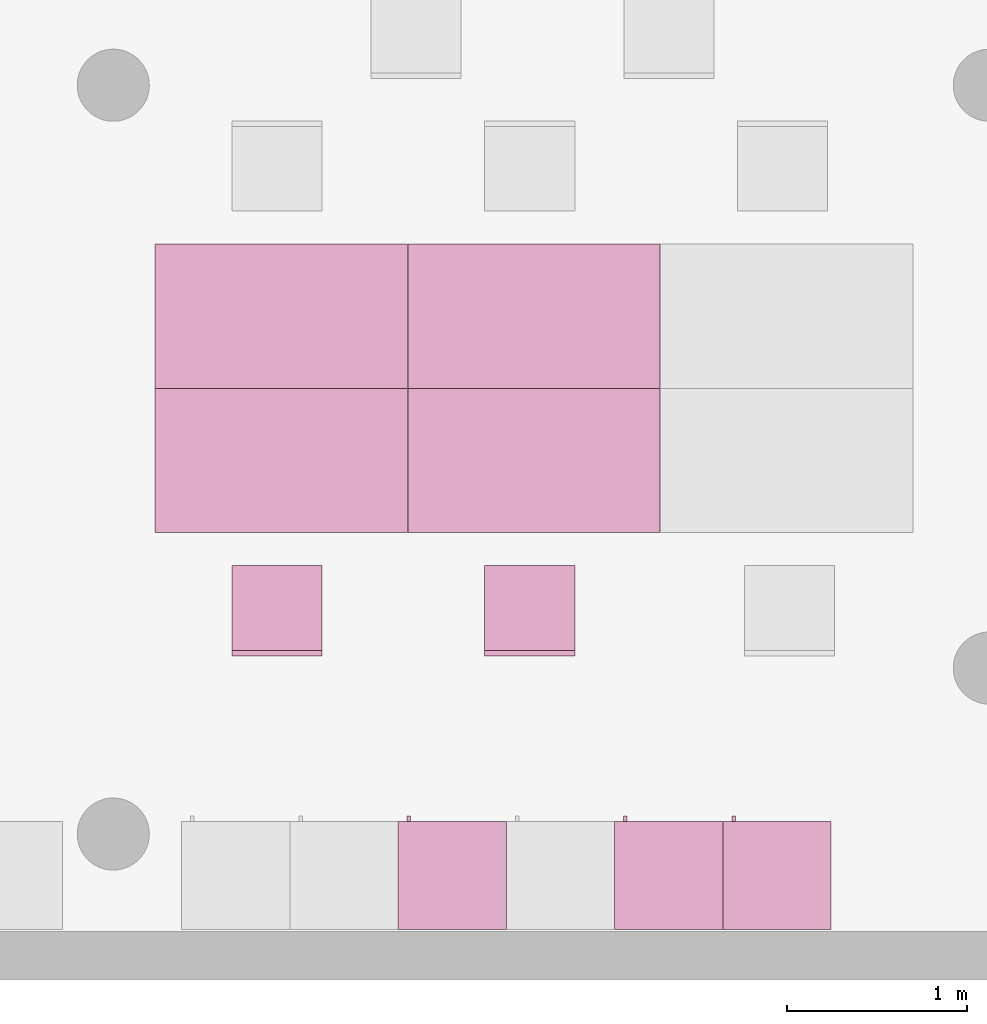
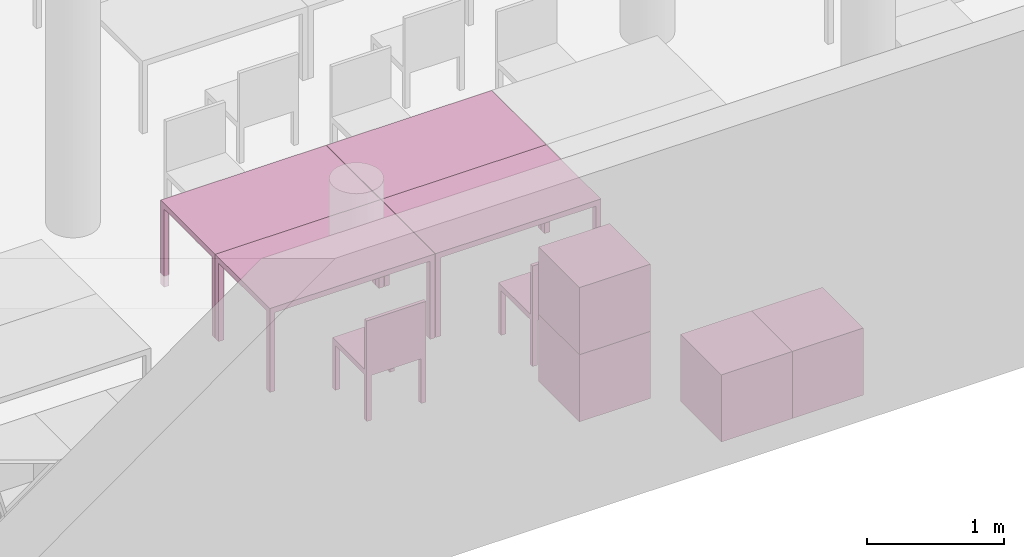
"""IFC4 building model written with IfcOpenShell, lengths in metres."""

from ifc_helpers import new_model, entity, si_unit, converted_unit, derived_unit, frame, origin, place, context, subcontext, project, spatial, faceted_brep, element, save


model = new_model("IFC4")

# Units and contexts
model_context = context("Model", 3, precision=1e-05, world=origin())
body_context = subcontext(model_context, "Body", "Model", "MODEL_VIEW")
ifc_project = project(units=[si_unit("LENGTHUNIT", "METRE"), si_unit("AREAUNIT", "SQUARE_METRE"), si_unit("VOLUMEUNIT", "CUBIC_METRE"), si_unit("MASSUNIT", "GRAM", prefix="KILO"), converted_unit("PLANEANGLEUNIT", "DEGREE", entity("IfcPlaneAngleMeasure", 0.0174532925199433), si_unit("PLANEANGLEUNIT", "RADIAN"), dimensions=[0, 0, 0, 0, 0, 0, 0]), derived_unit("THERMALTRANSMITTANCEUNIT", [(si_unit("POWERUNIT", "WATT"), 1), (si_unit("THERMODYNAMICTEMPERATUREUNIT", "KELVIN"), -1), (si_unit("LENGTHUNIT", "METRE"), -2)]), derived_unit("VOLUMETRICFLOWRATEUNIT", [(si_unit("LENGTHUNIT", "METRE"), 3), (converted_unit("TIMEUNIT", "hour", entity("IfcTimeMeasure", 3600.0), si_unit("TIMEUNIT", "SECOND"), dimensions=[0, 0, 1, 0, 0, 0, 0]), -1), (si_unit("LENGTHUNIT", "METRE"), -1)])], contexts=[model_context])

# Building, storeys
building_placement = place(None, origin())
building = spatial("IfcBuilding", under=ifc_project, at=building_placement, Name="HABITATGE PLURIFAMILIAR", CompositionType="ELEMENT")
storey_1_placement = place(building_placement, frame((0.0, 0.0, 15.28)))
storey_1 = spatial("IfcBuildingStorey", under=building, at=storey_1_placement, Name="PLANTA QUARTA", CompositionType="ELEMENT", Elevation=15.28)
storey_2_placement = place(storey_1_placement, frame((0.0, 0.0, 12.27)))
storey_2 = spatial("IfcBuildingStorey", under=storey_1, at=storey_2_placement, Name="NOU", CompositionType="PARTIAL")

# Furniture
furniture_1_placement = place(storey_2_placement, frame((416.369366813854, 15.3194598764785, -12.3699999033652)))
element("IfcFurniture", 1, at=furniture_1_placement, inside=storey_2, Name="Taula 140X80_P4", context=body_context, shape_type="Brep", body=[
    faceted_brep([(0.04375, 0.750069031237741, 0.0), (0.04375, 0.800069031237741, 0.0), (0.0, 0.800069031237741, 0.0), (0.0, 0.750069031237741, 0.0), (0.04375, 0.800069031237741, 0.7), (0.04375, 0.750069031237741, 0.7), (0.0, 0.750069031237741, 0.7), (0.0, 0.800069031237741, 0.7)], [[[0, 1, 2, 3]], [[4, 5, 6, 7]], [[1, 0, 5, 4]], [[2, 1, 4, 7]], [[3, 2, 7, 6]], [[0, 3, 6, 5]]], orient=[[False], [False], [False], [False], [False], [False]]),
    faceted_brep([(0.04375, 0.0, 0.0), (0.04375, 0.05, 0.0), (0.0, 0.05, 0.0), (0.0, 0.0, 0.0), (0.04375, 0.05, 0.7), (0.04375, 0.0, 0.7), (0.0, 0.0, 0.7), (0.0, 0.05, 0.7)], [[[0, 1, 2, 3]], [[4, 5, 6, 7]], [[1, 0, 5, 4]], [[2, 1, 4, 7]], [[3, 2, 7, 6]], [[0, 3, 6, 5]]], orient=[[False], [False], [False], [False], [False], [False]]),
    faceted_brep([(1.39732768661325, 0.0, 0.7), (1.39732768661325, 0.800069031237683, 0.7), (0.0, 0.800069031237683, 0.7), (0.0, 0.0, 0.7), (1.39732768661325, 0.800069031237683, 0.75), (1.39732768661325, 0.0, 0.75), (0.0, 0.0, 0.75), (0.0, 0.800069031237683, 0.75)], [[[0, 1, 2, 3]], [[4, 5, 6, 7]], [[1, 0, 5, 4]], [[2, 1, 4, 7]], [[3, 2, 7, 6]], [[0, 3, 6, 5]]], orient=[[False], [False], [False], [False], [False], [False]]),
    faceted_brep([(1.39732768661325, 0.750069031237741, 0.0), (1.39732768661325, 0.800069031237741, 0.0), (1.35357768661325, 0.800069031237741, 0.0), (1.35357768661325, 0.750069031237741, 0.0), (1.39732768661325, 0.800069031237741, 0.7), (1.39732768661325, 0.750069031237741, 0.7), (1.35357768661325, 0.750069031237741, 0.7), (1.35357768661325, 0.800069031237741, 0.7)], [[[0, 1, 2, 3]], [[4, 5, 6, 7]], [[1, 0, 5, 4]], [[2, 1, 4, 7]], [[3, 2, 7, 6]], [[0, 3, 6, 5]]], orient=[[False], [False], [False], [False], [False], [False]]),
    faceted_brep([(1.39732768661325, 0.0, 0.0), (1.39732768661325, 0.05, 0.0), (1.35357768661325, 0.05, 0.0), (1.35357768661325, 0.0, 0.0), (1.39732768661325, 0.05, 0.7), (1.39732768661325, 0.0, 0.7), (1.35357768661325, 0.0, 0.7), (1.35357768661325, 0.05, 0.7)], [[[0, 1, 2, 3]], [[4, 5, 6, 7]], [[1, 0, 5, 4]], [[2, 1, 4, 7]], [[3, 2, 7, 6]], [[0, 3, 6, 5]]], orient=[[False], [False], [False], [False], [False], [False]]),
])
furniture_2_placement = place(storey_2_placement, frame((417.77054591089, 15.3194598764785, -12.3699999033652)))
element("IfcFurniture", 2, at=furniture_2_placement, inside=storey_2, Name="Taula 140X80_P4", context=body_context, shape_type="Brep", body=[
    faceted_brep([(0.04375, 0.750069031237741, 0.0), (0.04375, 0.800069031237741, 0.0), (0.0, 0.800069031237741, 0.0), (0.0, 0.750069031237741, 0.0), (0.04375, 0.800069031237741, 0.7), (0.04375, 0.750069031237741, 0.7), (0.0, 0.750069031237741, 0.7), (0.0, 0.800069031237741, 0.7)], [[[0, 1, 2, 3]], [[4, 5, 6, 7]], [[1, 0, 5, 4]], [[2, 1, 4, 7]], [[3, 2, 7, 6]], [[0, 3, 6, 5]]], orient=[[False], [False], [False], [False], [False], [False]]),
    faceted_brep([(0.04375, 0.0, 0.0), (0.04375, 0.05, 0.0), (0.0, 0.05, 0.0), (0.0, 0.0, 0.0), (0.04375, 0.05, 0.7), (0.04375, 0.0, 0.7), (0.0, 0.0, 0.7), (0.0, 0.05, 0.7)], [[[0, 1, 2, 3]], [[4, 5, 6, 7]], [[1, 0, 5, 4]], [[2, 1, 4, 7]], [[3, 2, 7, 6]], [[0, 3, 6, 5]]], orient=[[False], [False], [False], [False], [False], [False]]),
    faceted_brep([(1.39732768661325, 0.0, 0.7), (1.39732768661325, 0.800069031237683, 0.7), (0.0, 0.800069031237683, 0.7), (0.0, 0.0, 0.7), (1.39732768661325, 0.800069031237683, 0.75), (1.39732768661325, 0.0, 0.75), (0.0, 0.0, 0.75), (0.0, 0.800069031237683, 0.75)], [[[0, 1, 2, 3]], [[4, 5, 6, 7]], [[1, 0, 5, 4]], [[2, 1, 4, 7]], [[3, 2, 7, 6]], [[0, 3, 6, 5]]], orient=[[False], [False], [False], [False], [False], [False]]),
    faceted_brep([(1.39732768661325, 0.750069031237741, 0.0), (1.39732768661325, 0.800069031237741, 0.0), (1.35357768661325, 0.800069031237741, 0.0), (1.35357768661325, 0.750069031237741, 0.0), (1.39732768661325, 0.800069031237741, 0.7), (1.39732768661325, 0.750069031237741, 0.7), (1.35357768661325, 0.750069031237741, 0.7), (1.35357768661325, 0.800069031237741, 0.7)], [[[0, 1, 2, 3]], [[4, 5, 6, 7]], [[1, 0, 5, 4]], [[2, 1, 4, 7]], [[3, 2, 7, 6]], [[0, 3, 6, 5]]], orient=[[False], [False], [False], [False], [False], [False]]),
    faceted_brep([(1.39732768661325, 0.0, 0.0), (1.39732768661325, 0.05, 0.0), (1.35357768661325, 0.05, 0.0), (1.35357768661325, 0.0, 0.0), (1.39732768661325, 0.05, 0.7), (1.39732768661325, 0.0, 0.7), (1.35357768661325, 0.0, 0.7), (1.35357768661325, 0.05, 0.7)], [[[0, 1, 2, 3]], [[4, 5, 6, 7]], [[1, 0, 5, 4]], [[2, 1, 4, 7]], [[3, 2, 7, 6]], [[0, 3, 6, 5]]], orient=[[False], [False], [False], [False], [False], [False]]),
])
furniture_3_placement = place(storey_2_placement, frame((417.77054591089, 16.119528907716, -12.3699999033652)))
element("IfcFurniture", 3, at=furniture_3_placement, inside=storey_2, Name="Taula 140X80_P4", context=body_context, shape_type="Brep", body=[
    faceted_brep([(0.04375, 0.05, 0.0), (0.0, 0.05, 0.0), (0.0, 0.0, 0.0), (0.04375, 0.0, 0.0), (0.04375, 0.0, 0.7), (0.0, 0.0, 0.7), (0.0, 0.05, 0.7), (0.04375, 0.05, 0.7)], [[[0, 1, 2, 3]], [[4, 5, 6, 7]], [[3, 4, 7, 0]], [[2, 5, 4, 3]], [[1, 6, 5, 2]], [[0, 7, 6, 1]]], orient=[[False], [False], [False], [False], [False], [False]]),
    faceted_brep([(0.04375, 0.800069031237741, 0.0), (0.0, 0.800069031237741, 0.0), (0.0, 0.750069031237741, 0.0), (0.04375, 0.750069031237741, 0.0), (0.04375, 0.750069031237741, 0.7), (0.0, 0.750069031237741, 0.7), (0.0, 0.800069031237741, 0.7), (0.04375, 0.800069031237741, 0.7)], [[[0, 1, 2, 3]], [[4, 5, 6, 7]], [[3, 4, 7, 0]], [[2, 5, 4, 3]], [[1, 6, 5, 2]], [[0, 7, 6, 1]]], orient=[[False], [False], [False], [False], [False], [False]]),
    faceted_brep([(1.39732768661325, 0.800069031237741, 0.7), (0.0, 0.800069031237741, 0.7), (0.0, 0.0, 0.7), (1.39732768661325, 0.0, 0.7), (1.39732768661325, 0.0, 0.75), (0.0, 0.0, 0.75), (0.0, 0.800069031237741, 0.75), (1.39732768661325, 0.800069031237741, 0.75)], [[[0, 1, 2, 3]], [[4, 5, 6, 7]], [[3, 4, 7, 0]], [[2, 5, 4, 3]], [[1, 6, 5, 2]], [[0, 7, 6, 1]]], orient=[[False], [False], [False], [False], [False], [False]]),
    faceted_brep([(1.39732768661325, 0.05, 0.0), (1.35357768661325, 0.05, 0.0), (1.35357768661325, 0.0, 0.0), (1.39732768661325, 0.0, 0.0), (1.39732768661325, 0.0, 0.7), (1.35357768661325, 0.0, 0.7), (1.35357768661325, 0.05, 0.7), (1.39732768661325, 0.05, 0.7)], [[[0, 1, 2, 3]], [[4, 5, 6, 7]], [[3, 4, 7, 0]], [[2, 5, 4, 3]], [[1, 6, 5, 2]], [[0, 7, 6, 1]]], orient=[[False], [False], [False], [False], [False], [False]]),
    faceted_brep([(1.39732768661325, 0.800069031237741, 0.0), (1.35357768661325, 0.800069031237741, 0.0), (1.35357768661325, 0.750069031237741, 0.0), (1.39732768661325, 0.750069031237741, 0.0), (1.39732768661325, 0.750069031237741, 0.7), (1.35357768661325, 0.750069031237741, 0.7), (1.35357768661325, 0.800069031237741, 0.7), (1.39732768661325, 0.800069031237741, 0.7)], [[[0, 1, 2, 3]], [[4, 5, 6, 7]], [[3, 4, 7, 0]], [[2, 5, 4, 3]], [[1, 6, 5, 2]], [[0, 7, 6, 1]]], orient=[[False], [False], [False], [False], [False], [False]]),
])
furniture_4_placement = place(storey_2_placement, frame((416.369366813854, 16.119528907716, -12.3699999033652)))
element("IfcFurniture", 4, at=furniture_4_placement, inside=storey_2, Name="Taula 140X80_P4", context=body_context, shape_type="Brep", body=[
    faceted_brep([(0.04375, 0.05, 0.0), (0.0, 0.05, 0.0), (0.0, 0.0, 0.0), (0.04375, 0.0, 0.0), (0.04375, 0.0, 0.7), (0.0, 0.0, 0.7), (0.0, 0.05, 0.7), (0.04375, 0.05, 0.7)], [[[0, 1, 2, 3]], [[4, 5, 6, 7]], [[3, 4, 7, 0]], [[2, 5, 4, 3]], [[1, 6, 5, 2]], [[0, 7, 6, 1]]], orient=[[False], [False], [False], [False], [False], [False]]),
    faceted_brep([(0.04375, 0.800069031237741, 0.0), (0.0, 0.800069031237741, 0.0), (0.0, 0.750069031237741, 0.0), (0.04375, 0.750069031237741, 0.0), (0.04375, 0.750069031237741, 0.7), (0.0, 0.750069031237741, 0.7), (0.0, 0.800069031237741, 0.7), (0.04375, 0.800069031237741, 0.7)], [[[0, 1, 2, 3]], [[4, 5, 6, 7]], [[3, 4, 7, 0]], [[2, 5, 4, 3]], [[1, 6, 5, 2]], [[0, 7, 6, 1]]], orient=[[False], [False], [False], [False], [False], [False]]),
    faceted_brep([(1.39732768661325, 0.800069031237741, 0.7), (0.0, 0.800069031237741, 0.7), (0.0, 0.0, 0.7), (1.39732768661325, 0.0, 0.7), (1.39732768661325, 0.0, 0.75), (0.0, 0.0, 0.75), (0.0, 0.800069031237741, 0.75), (1.39732768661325, 0.800069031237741, 0.75)], [[[0, 1, 2, 3]], [[4, 5, 6, 7]], [[3, 4, 7, 0]], [[2, 5, 4, 3]], [[1, 6, 5, 2]], [[0, 7, 6, 1]]], orient=[[False], [False], [False], [False], [False], [False]]),
    faceted_brep([(1.39732768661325, 0.05, 0.0), (1.35357768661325, 0.05, 0.0), (1.35357768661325, 0.0, 0.0), (1.39732768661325, 0.0, 0.0), (1.39732768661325, 0.0, 0.7), (1.35357768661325, 0.0, 0.7), (1.35357768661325, 0.05, 0.7), (1.39732768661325, 0.05, 0.7)], [[[0, 1, 2, 3]], [[4, 5, 6, 7]], [[3, 4, 7, 0]], [[2, 5, 4, 3]], [[1, 6, 5, 2]], [[0, 7, 6, 1]]], orient=[[False], [False], [False], [False], [False], [False]]),
    faceted_brep([(1.39732768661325, 0.800069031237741, 0.0), (1.35357768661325, 0.800069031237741, 0.0), (1.35357768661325, 0.750069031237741, 0.0), (1.39732768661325, 0.750069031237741, 0.0), (1.39732768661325, 0.750069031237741, 0.7), (1.35357768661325, 0.750069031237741, 0.7), (1.35357768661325, 0.800069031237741, 0.7), (1.39732768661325, 0.800069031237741, 0.7)], [[[0, 1, 2, 3]], [[4, 5, 6, 7]], [[3, 4, 7, 0]], [[2, 5, 4, 3]], [[1, 6, 5, 2]], [[0, 7, 6, 1]]], orient=[[False], [False], [False], [False], [False], [False]]),
])
furniture_5_placement = place(storey_2_placement, frame((418.91527037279, 13.1194598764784, -12.37)))
element("IfcFurniture", 5, at=furniture_5_placement, inside=storey_2, Name="Armai 60x60x60_P4", context=body_context, shape_type="Brep", body=[
    faceted_brep([(0.0, 0.6, 0.02), (0.0, 0.6, 0.0), (0.6, 0.6, 0.0), (0.6, 0.6, 0.02), (0.6, 0.0, 0.0), (0.6, 0.0, 0.02), (0.0, 0.0, 0.0), (0.0, 0.0, 0.02)], [[[0, 1, 2, 3]], [[3, 2, 4, 5]], [[5, 4, 6, 7]], [[7, 6, 1, 0]], [[0, 3, 5, 7]], [[1, 6, 4, 2]]], orient=[[False], [False], [False], [False], [False], [False]]),
    faceted_brep([(0.580000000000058, 0.0, 0.58), (0.580000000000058, 0.0200000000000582, 0.58), (0.580000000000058, 0.0200000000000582, 0.02), (0.580000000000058, 0.0, 0.02), (0.0200000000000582, 0.0200000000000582, 0.02), (0.0200000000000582, 0.0, 0.02), (0.0200000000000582, 0.0200000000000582, 0.58), (0.0200000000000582, 0.0, 0.58)], [[[0, 1, 2, 3]], [[3, 2, 4, 5]], [[5, 4, 6, 7]], [[7, 6, 1, 0]], [[0, 3, 5, 7]], [[1, 6, 4, 2]]], orient=[[False], [False], [False], [False], [False], [False]]),
    faceted_brep([(0.0200000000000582, 0.6, 0.58), (0.0, 0.6, 0.58), (0.0, 0.6, 0.02), (0.0200000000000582, 0.6, 0.02), (0.0, 0.0, 0.02), (0.0200000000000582, 0.0, 0.02), (0.0, 0.0, 0.58), (0.0200000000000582, 0.0, 0.58)], [[[0, 1, 2, 3]], [[3, 2, 4, 5]], [[5, 4, 6, 7]], [[7, 6, 1, 0]], [[0, 3, 5, 7]], [[1, 6, 4, 2]]], orient=[[False], [False], [False], [False], [False], [False]]),
    faceted_brep([(0.0, 0.58, 0.58), (0.0, 0.6, 0.58), (0.0, 0.6, 0.02), (0.0, 0.58, 0.02), (0.02, 0.6, 0.02), (0.02, 0.58, 0.02), (0.02, 0.6, 0.58), (0.02, 0.58, 0.58)], [[[0, 1, 2, 3]], [[3, 2, 4, 5]], [[5, 4, 6, 7]], [[7, 6, 1, 0]], [[0, 3, 5, 7]], [[1, 6, 4, 2]]], orient=[[False], [False], [False], [False], [False], [False]]),
    faceted_brep([(0.6, 0.6, 0.58), (0.58, 0.6, 0.58), (0.58, 0.6, 0.02), (0.6, 0.6, 0.02), (0.58, 0.0, 0.02), (0.6, 0.0, 0.02), (0.58, 0.0, 0.58), (0.6, 0.0, 0.58)], [[[0, 1, 2, 3]], [[3, 2, 4, 5]], [[5, 4, 6, 7]], [[7, 6, 1, 0]], [[0, 3, 5, 7]], [[1, 6, 4, 2]]], orient=[[False], [False], [False], [False], [False], [False]]),
    faceted_brep([(0.0, 0.600000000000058, 0.6), (0.0, 0.600000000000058, 0.58), (0.600000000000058, 0.600000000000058, 0.58), (0.600000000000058, 0.600000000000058, 0.6), (0.600000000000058, 0.0, 0.58), (0.600000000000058, 0.0, 0.6), (0.0, 0.0, 0.58), (0.0, 0.0, 0.6)], [[[0, 1, 2, 3]], [[3, 2, 4, 5]], [[5, 4, 6, 7]], [[7, 6, 1, 0]], [[0, 3, 5, 7]], [[1, 6, 4, 2]]], orient=[[False], [False], [False], [False], [False], [False]]),
    faceted_brep([(0.580000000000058, 0.580000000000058, 0.58), (0.580000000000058, 0.600000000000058, 0.58), (0.580000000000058, 0.600000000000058, 0.02), (0.580000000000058, 0.580000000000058, 0.02), (0.02, 0.600000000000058, 0.02), (0.02, 0.580000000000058, 0.02), (0.02, 0.600000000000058, 0.58), (0.02, 0.580000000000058, 0.58)], [[[0, 1, 2, 3]], [[3, 2, 4, 5]], [[5, 4, 6, 7]], [[7, 6, 1, 0]], [[0, 3, 5, 7]], [[1, 6, 4, 2]]], orient=[[False], [False], [False], [False], [False], [False]]),
    faceted_brep([(0.0700000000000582, 0.600000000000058, 0.358064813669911), (0.0700000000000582, 0.630000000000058, 0.358064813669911), (0.0700000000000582, 0.630000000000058, 0.258064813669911), (0.0700000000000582, 0.600000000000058, 0.258064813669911), (0.0500000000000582, 0.630000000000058, 0.258064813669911), (0.0500000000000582, 0.600000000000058, 0.258064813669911), (0.0500000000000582, 0.630000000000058, 0.358064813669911), (0.0500000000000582, 0.600000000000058, 0.358064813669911)], [[[0, 1, 2, 3]], [[3, 2, 4, 5]], [[5, 4, 6, 7]], [[7, 6, 1, 0]], [[0, 3, 5, 7]], [[1, 6, 4, 2]]], orient=[[False], [False], [False], [False], [False], [False]]),
])
furniture_6_placement = place(storey_2_placement, frame((419.51527037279, 13.1194598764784, -12.37)))
element("IfcFurniture", 6, at=furniture_6_placement, inside=storey_2, Name="Armai 60x60x60_P4", context=body_context, shape_type="Brep", body=[
    faceted_brep([(0.0, 0.6, 0.02), (0.0, 0.6, 0.0), (0.6, 0.6, 0.0), (0.6, 0.6, 0.02), (0.6, 0.0, 0.0), (0.6, 0.0, 0.02), (0.0, 0.0, 0.0), (0.0, 0.0, 0.02)], [[[0, 1, 2, 3]], [[3, 2, 4, 5]], [[5, 4, 6, 7]], [[7, 6, 1, 0]], [[0, 3, 5, 7]], [[1, 6, 4, 2]]], orient=[[False], [False], [False], [False], [False], [False]]),
    faceted_brep([(0.580000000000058, 0.0, 0.58), (0.580000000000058, 0.0200000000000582, 0.58), (0.580000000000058, 0.0200000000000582, 0.02), (0.580000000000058, 0.0, 0.02), (0.0200000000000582, 0.0200000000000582, 0.02), (0.0200000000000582, 0.0, 0.02), (0.0200000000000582, 0.0200000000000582, 0.58), (0.0200000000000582, 0.0, 0.58)], [[[0, 1, 2, 3]], [[3, 2, 4, 5]], [[5, 4, 6, 7]], [[7, 6, 1, 0]], [[0, 3, 5, 7]], [[1, 6, 4, 2]]], orient=[[False], [False], [False], [False], [False], [False]]),
    faceted_brep([(0.0200000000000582, 0.6, 0.58), (0.0, 0.6, 0.58), (0.0, 0.6, 0.02), (0.0200000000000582, 0.6, 0.02), (0.0, 0.0, 0.02), (0.0200000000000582, 0.0, 0.02), (0.0, 0.0, 0.58), (0.0200000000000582, 0.0, 0.58)], [[[0, 1, 2, 3]], [[3, 2, 4, 5]], [[5, 4, 6, 7]], [[7, 6, 1, 0]], [[0, 3, 5, 7]], [[1, 6, 4, 2]]], orient=[[False], [False], [False], [False], [False], [False]]),
    faceted_brep([(0.0, 0.58, 0.58), (0.0, 0.6, 0.58), (0.0, 0.6, 0.02), (0.0, 0.58, 0.02), (0.02, 0.6, 0.02), (0.02, 0.58, 0.02), (0.02, 0.6, 0.58), (0.02, 0.58, 0.58)], [[[0, 1, 2, 3]], [[3, 2, 4, 5]], [[5, 4, 6, 7]], [[7, 6, 1, 0]], [[0, 3, 5, 7]], [[1, 6, 4, 2]]], orient=[[False], [False], [False], [False], [False], [False]]),
    faceted_brep([(0.6, 0.6, 0.58), (0.58, 0.6, 0.58), (0.58, 0.6, 0.02), (0.6, 0.6, 0.02), (0.58, 0.0, 0.02), (0.6, 0.0, 0.02), (0.58, 0.0, 0.58), (0.6, 0.0, 0.58)], [[[0, 1, 2, 3]], [[3, 2, 4, 5]], [[5, 4, 6, 7]], [[7, 6, 1, 0]], [[0, 3, 5, 7]], [[1, 6, 4, 2]]], orient=[[False], [False], [False], [False], [False], [False]]),
    faceted_brep([(0.0, 0.600000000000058, 0.6), (0.0, 0.600000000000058, 0.58), (0.600000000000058, 0.600000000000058, 0.58), (0.600000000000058, 0.600000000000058, 0.6), (0.600000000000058, 0.0, 0.58), (0.600000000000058, 0.0, 0.6), (0.0, 0.0, 0.58), (0.0, 0.0, 0.6)], [[[0, 1, 2, 3]], [[3, 2, 4, 5]], [[5, 4, 6, 7]], [[7, 6, 1, 0]], [[0, 3, 5, 7]], [[1, 6, 4, 2]]], orient=[[False], [False], [False], [False], [False], [False]]),
    faceted_brep([(0.580000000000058, 0.580000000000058, 0.58), (0.580000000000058, 0.600000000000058, 0.58), (0.580000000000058, 0.600000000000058, 0.02), (0.580000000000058, 0.580000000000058, 0.02), (0.02, 0.600000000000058, 0.02), (0.02, 0.580000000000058, 0.02), (0.02, 0.600000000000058, 0.58), (0.02, 0.580000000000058, 0.58)], [[[0, 1, 2, 3]], [[3, 2, 4, 5]], [[5, 4, 6, 7]], [[7, 6, 1, 0]], [[0, 3, 5, 7]], [[1, 6, 4, 2]]], orient=[[False], [False], [False], [False], [False], [False]]),
    faceted_brep([(0.0700000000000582, 0.600000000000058, 0.358064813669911), (0.0700000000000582, 0.630000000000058, 0.358064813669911), (0.0700000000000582, 0.630000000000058, 0.258064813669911), (0.0700000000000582, 0.600000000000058, 0.258064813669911), (0.0500000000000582, 0.630000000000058, 0.258064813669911), (0.0500000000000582, 0.600000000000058, 0.258064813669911), (0.0500000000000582, 0.630000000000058, 0.358064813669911), (0.0500000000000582, 0.600000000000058, 0.358064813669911)], [[[0, 1, 2, 3]], [[3, 2, 4, 5]], [[5, 4, 6, 7]], [[7, 6, 1, 0]], [[0, 3, 5, 7]], [[1, 6, 4, 2]]], orient=[[False], [False], [False], [False], [False], [False]]),
])
furniture_7_placement = place(storey_2_placement, frame((417.71527037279, 13.1194598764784, -11.77)))
element("IfcFurniture", 7, at=furniture_7_placement, inside=storey_2, Name="Armai 60x60x60_P4", context=body_context, shape_type="Brep", body=[
    faceted_brep([(0.0, 0.6, 0.02), (0.0, 0.6, 0.0), (0.6, 0.6, 0.0), (0.6, 0.6, 0.02), (0.6, 0.0, 0.0), (0.6, 0.0, 0.02), (0.0, 0.0, 0.0), (0.0, 0.0, 0.02)], [[[0, 1, 2, 3]], [[3, 2, 4, 5]], [[5, 4, 6, 7]], [[7, 6, 1, 0]], [[0, 3, 5, 7]], [[1, 6, 4, 2]]], orient=[[False], [False], [False], [False], [False], [False]]),
    faceted_brep([(0.580000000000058, 0.0, 0.58), (0.580000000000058, 0.0200000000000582, 0.58), (0.580000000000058, 0.0200000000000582, 0.02), (0.580000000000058, 0.0, 0.02), (0.0200000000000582, 0.0200000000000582, 0.02), (0.0200000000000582, 0.0, 0.02), (0.0200000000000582, 0.0200000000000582, 0.58), (0.0200000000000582, 0.0, 0.58)], [[[0, 1, 2, 3]], [[3, 2, 4, 5]], [[5, 4, 6, 7]], [[7, 6, 1, 0]], [[0, 3, 5, 7]], [[1, 6, 4, 2]]], orient=[[False], [False], [False], [False], [False], [False]]),
    faceted_brep([(0.0200000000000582, 0.6, 0.58), (0.0, 0.6, 0.58), (0.0, 0.6, 0.02), (0.0200000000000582, 0.6, 0.02), (0.0, 0.0, 0.02), (0.0200000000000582, 0.0, 0.02), (0.0, 0.0, 0.58), (0.0200000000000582, 0.0, 0.58)], [[[0, 1, 2, 3]], [[3, 2, 4, 5]], [[5, 4, 6, 7]], [[7, 6, 1, 0]], [[0, 3, 5, 7]], [[1, 6, 4, 2]]], orient=[[False], [False], [False], [False], [False], [False]]),
    faceted_brep([(0.0, 0.58, 0.58), (0.0, 0.6, 0.58), (0.0, 0.6, 0.02), (0.0, 0.58, 0.02), (0.02, 0.6, 0.02), (0.02, 0.58, 0.02), (0.02, 0.6, 0.58), (0.02, 0.58, 0.58)], [[[0, 1, 2, 3]], [[3, 2, 4, 5]], [[5, 4, 6, 7]], [[7, 6, 1, 0]], [[0, 3, 5, 7]], [[1, 6, 4, 2]]], orient=[[False], [False], [False], [False], [False], [False]]),
    faceted_brep([(0.6, 0.6, 0.58), (0.58, 0.6, 0.58), (0.58, 0.6, 0.02), (0.6, 0.6, 0.02), (0.58, 0.0, 0.02), (0.6, 0.0, 0.02), (0.58, 0.0, 0.58), (0.6, 0.0, 0.58)], [[[0, 1, 2, 3]], [[3, 2, 4, 5]], [[5, 4, 6, 7]], [[7, 6, 1, 0]], [[0, 3, 5, 7]], [[1, 6, 4, 2]]], orient=[[False], [False], [False], [False], [False], [False]]),
    faceted_brep([(0.0, 0.600000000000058, 0.6), (0.0, 0.600000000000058, 0.58), (0.600000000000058, 0.600000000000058, 0.58), (0.600000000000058, 0.600000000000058, 0.6), (0.600000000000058, 0.0, 0.58), (0.600000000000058, 0.0, 0.6), (0.0, 0.0, 0.58), (0.0, 0.0, 0.6)], [[[0, 1, 2, 3]], [[3, 2, 4, 5]], [[5, 4, 6, 7]], [[7, 6, 1, 0]], [[0, 3, 5, 7]], [[1, 6, 4, 2]]], orient=[[False], [False], [False], [False], [False], [False]]),
    faceted_brep([(0.580000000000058, 0.580000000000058, 0.58), (0.580000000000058, 0.600000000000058, 0.58), (0.580000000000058, 0.600000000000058, 0.02), (0.580000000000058, 0.580000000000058, 0.02), (0.02, 0.600000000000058, 0.02), (0.02, 0.580000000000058, 0.02), (0.02, 0.600000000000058, 0.58), (0.02, 0.580000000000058, 0.58)], [[[0, 1, 2, 3]], [[3, 2, 4, 5]], [[5, 4, 6, 7]], [[7, 6, 1, 0]], [[0, 3, 5, 7]], [[1, 6, 4, 2]]], orient=[[False], [False], [False], [False], [False], [False]]),
    faceted_brep([(0.0700000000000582, 0.600000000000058, 0.358064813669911), (0.0700000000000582, 0.630000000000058, 0.358064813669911), (0.0700000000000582, 0.630000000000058, 0.258064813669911), (0.0700000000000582, 0.600000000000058, 0.258064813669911), (0.0500000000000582, 0.630000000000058, 0.258064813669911), (0.0500000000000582, 0.600000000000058, 0.258064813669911), (0.0500000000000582, 0.630000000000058, 0.358064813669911), (0.0500000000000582, 0.600000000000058, 0.358064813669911)], [[[0, 1, 2, 3]], [[3, 2, 4, 5]], [[5, 4, 6, 7]], [[7, 6, 1, 0]], [[0, 3, 5, 7]], [[1, 6, 4, 2]]], orient=[[False], [False], [False], [False], [False], [False]]),
])
furniture_8_placement = place(storey_2_placement, frame((417.71527037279, 13.1194598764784, -11.17)))
element("IfcFurniture", 8, at=furniture_8_placement, inside=storey_2, Name="Armai 60x60x60_P4", context=body_context, shape_type="Brep", body=[
    faceted_brep([(0.0, 0.6, 0.02), (0.0, 0.6, 0.0), (0.6, 0.6, 0.0), (0.6, 0.6, 0.02), (0.6, 0.0, 0.0), (0.6, 0.0, 0.02), (0.0, 0.0, 0.0), (0.0, 0.0, 0.02)], [[[0, 1, 2, 3]], [[3, 2, 4, 5]], [[5, 4, 6, 7]], [[7, 6, 1, 0]], [[0, 3, 5, 7]], [[1, 6, 4, 2]]], orient=[[False], [False], [False], [False], [False], [False]]),
    faceted_brep([(0.580000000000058, 0.0, 0.58), (0.580000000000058, 0.0200000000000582, 0.58), (0.580000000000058, 0.0200000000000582, 0.02), (0.580000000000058, 0.0, 0.02), (0.0200000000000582, 0.0200000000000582, 0.02), (0.0200000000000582, 0.0, 0.02), (0.0200000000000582, 0.0200000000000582, 0.58), (0.0200000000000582, 0.0, 0.58)], [[[0, 1, 2, 3]], [[3, 2, 4, 5]], [[5, 4, 6, 7]], [[7, 6, 1, 0]], [[0, 3, 5, 7]], [[1, 6, 4, 2]]], orient=[[False], [False], [False], [False], [False], [False]]),
    faceted_brep([(0.0200000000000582, 0.6, 0.58), (0.0, 0.6, 0.58), (0.0, 0.6, 0.02), (0.0200000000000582, 0.6, 0.02), (0.0, 0.0, 0.02), (0.0200000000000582, 0.0, 0.02), (0.0, 0.0, 0.58), (0.0200000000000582, 0.0, 0.58)], [[[0, 1, 2, 3]], [[3, 2, 4, 5]], [[5, 4, 6, 7]], [[7, 6, 1, 0]], [[0, 3, 5, 7]], [[1, 6, 4, 2]]], orient=[[False], [False], [False], [False], [False], [False]]),
    faceted_brep([(0.0, 0.58, 0.58), (0.0, 0.6, 0.58), (0.0, 0.6, 0.02), (0.0, 0.58, 0.02), (0.02, 0.6, 0.02), (0.02, 0.58, 0.02), (0.02, 0.6, 0.58), (0.02, 0.58, 0.58)], [[[0, 1, 2, 3]], [[3, 2, 4, 5]], [[5, 4, 6, 7]], [[7, 6, 1, 0]], [[0, 3, 5, 7]], [[1, 6, 4, 2]]], orient=[[False], [False], [False], [False], [False], [False]]),
    faceted_brep([(0.6, 0.6, 0.58), (0.58, 0.6, 0.58), (0.58, 0.6, 0.02), (0.6, 0.6, 0.02), (0.58, 0.0, 0.02), (0.6, 0.0, 0.02), (0.58, 0.0, 0.58), (0.6, 0.0, 0.58)], [[[0, 1, 2, 3]], [[3, 2, 4, 5]], [[5, 4, 6, 7]], [[7, 6, 1, 0]], [[0, 3, 5, 7]], [[1, 6, 4, 2]]], orient=[[False], [False], [False], [False], [False], [False]]),
    faceted_brep([(0.0, 0.600000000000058, 0.6), (0.0, 0.600000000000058, 0.58), (0.600000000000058, 0.600000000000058, 0.58), (0.600000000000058, 0.600000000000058, 0.6), (0.600000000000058, 0.0, 0.58), (0.600000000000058, 0.0, 0.6), (0.0, 0.0, 0.58), (0.0, 0.0, 0.6)], [[[0, 1, 2, 3]], [[3, 2, 4, 5]], [[5, 4, 6, 7]], [[7, 6, 1, 0]], [[0, 3, 5, 7]], [[1, 6, 4, 2]]], orient=[[False], [False], [False], [False], [False], [False]]),
    faceted_brep([(0.580000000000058, 0.580000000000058, 0.58), (0.580000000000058, 0.600000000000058, 0.58), (0.580000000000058, 0.600000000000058, 0.02), (0.580000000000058, 0.580000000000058, 0.02), (0.02, 0.600000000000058, 0.02), (0.02, 0.580000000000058, 0.02), (0.02, 0.600000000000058, 0.58), (0.02, 0.580000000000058, 0.58)], [[[0, 1, 2, 3]], [[3, 2, 4, 5]], [[5, 4, 6, 7]], [[7, 6, 1, 0]], [[0, 3, 5, 7]], [[1, 6, 4, 2]]], orient=[[False], [False], [False], [False], [False], [False]]),
    faceted_brep([(0.0700000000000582, 0.600000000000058, 0.358064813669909), (0.0700000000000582, 0.630000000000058, 0.358064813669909), (0.0700000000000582, 0.630000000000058, 0.258064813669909), (0.0700000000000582, 0.600000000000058, 0.258064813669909), (0.0500000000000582, 0.630000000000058, 0.258064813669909), (0.0500000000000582, 0.600000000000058, 0.258064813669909), (0.0500000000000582, 0.630000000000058, 0.358064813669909), (0.0500000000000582, 0.600000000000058, 0.358064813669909)], [[[0, 1, 2, 3]], [[3, 2, 4, 5]], [[5, 4, 6, 7]], [[7, 6, 1, 0]], [[0, 3, 5, 7]], [[1, 6, 4, 2]]], orient=[[False], [False], [False], [False], [False], [False]]),
])
furniture_9_placement = place(storey_2_placement, frame((416.794057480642, 14.6372469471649, -12.3653305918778)))
element("IfcFurniture", 9, at=furniture_9_placement, inside=storey_2, Name="Cadira d'Oficina_P4", context=body_context, shape_type="Brep", body=[
    faceted_brep([(0.5, 0.5, 0.399999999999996), (0.0, 0.500000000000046, 0.399999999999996), (0.0, 0.0, 0.399999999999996), (0.5, 0.0, 0.399999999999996), (0.5, 0.0, 0.449999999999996), (0.0, 0.0, 0.449999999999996), (0.0, 0.500000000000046, 0.449999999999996), (0.5, 0.5, 0.449999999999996)], [[[0, 1, 2, 3]], [[4, 5, 6, 7]], [[3, 4, 7, 0]], [[2, 5, 4, 3]], [[1, 6, 5, 2]], [[0, 7, 6, 1]]], orient=[[False], [False], [False], [False], [False], [False]]),
    faceted_brep([(0.0, 0.0400000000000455, 0.0), (0.0, 0.0, 0.0), (0.04, 0.0, 0.0), (0.04, 0.0400000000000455, 0.0), (0.04, 0.0400000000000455, 0.4), (0.04, 0.0, 0.4), (0.0, 0.0, 0.4), (0.0, 0.0400000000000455, 0.4)], [[[0, 1, 2, 3]], [[4, 5, 6, 7]], [[3, 4, 7, 0]], [[2, 5, 4, 3]], [[1, 6, 5, 2]], [[0, 7, 6, 1]]], orient=[[False], [False], [False], [False], [False], [False]]),
    faceted_brep([(0.0, 0.500000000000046, 0.0), (0.0, 0.460000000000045, 0.0), (0.04, 0.460000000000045, 0.0), (0.04, 0.500000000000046, 0.0), (0.04, 0.500000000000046, 0.4), (0.04, 0.460000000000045, 0.4), (0.0, 0.460000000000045, 0.4), (0.0, 0.500000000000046, 0.4)], [[[0, 1, 2, 3]], [[4, 5, 6, 7]], [[3, 4, 7, 0]], [[2, 5, 4, 3]], [[1, 6, 5, 2]], [[0, 7, 6, 1]]], orient=[[False], [False], [False], [False], [False], [False]]),
    faceted_brep([(0.46, 0.04, 0.0), (0.46, 0.0, 0.0), (0.5, 0.0, 0.0), (0.5, 0.04, 0.0), (0.5, 0.04, 0.4), (0.5, 0.0, 0.4), (0.46, 0.0, 0.4), (0.46, 0.04, 0.4)], [[[0, 1, 2, 3]], [[4, 5, 6, 7]], [[3, 4, 7, 0]], [[2, 5, 4, 3]], [[1, 6, 5, 2]], [[0, 7, 6, 1]]], orient=[[False], [False], [False], [False], [False], [False]]),
    faceted_brep([(0.46, 0.5, 0.0), (0.46, 0.46, 0.0), (0.5, 0.46, 0.0), (0.5, 0.5, 0.0), (0.5, 0.5, 0.4), (0.5, 0.46, 0.4), (0.46, 0.46, 0.4), (0.46, 0.5, 0.4)], [[[0, 1, 2, 3]], [[4, 5, 6, 7]], [[3, 4, 7, 0]], [[2, 5, 4, 3]], [[1, 6, 5, 2]], [[0, 7, 6, 1]]], orient=[[False], [False], [False], [False], [False], [False]]),
    faceted_brep([(0.0, 0.0300000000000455, 0.45), (0.0, 0.0, 0.45), (0.5, 0.0, 0.45), (0.5, 0.03, 0.45), (0.5, 0.03, 0.9), (0.5, 0.0, 0.9), (0.0, 0.0, 0.9), (0.0, 0.0300000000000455, 0.9)], [[[0, 1, 2, 3]], [[4, 5, 6, 7]], [[3, 4, 7, 0]], [[2, 5, 4, 3]], [[1, 6, 5, 2]], [[0, 7, 6, 1]]], orient=[[False], [False], [False], [False], [False], [False]]),
])
furniture_10_placement = place(storey_2_placement, frame((418.195236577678, 14.6372469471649, -12.3653305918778)))
element("IfcFurniture", 10, at=furniture_10_placement, inside=storey_2, Name="Cadira d'Oficina_P4", context=body_context, shape_type="Brep", body=[
    faceted_brep([(0.5, 0.5, 0.399999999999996), (0.0, 0.500000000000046, 0.399999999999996), (0.0, 0.0, 0.399999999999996), (0.5, 0.0, 0.399999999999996), (0.5, 0.0, 0.449999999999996), (0.0, 0.0, 0.449999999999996), (0.0, 0.500000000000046, 0.449999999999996), (0.5, 0.5, 0.449999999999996)], [[[0, 1, 2, 3]], [[4, 5, 6, 7]], [[3, 4, 7, 0]], [[2, 5, 4, 3]], [[1, 6, 5, 2]], [[0, 7, 6, 1]]], orient=[[False], [False], [False], [False], [False], [False]]),
    faceted_brep([(0.0, 0.0400000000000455, 0.0), (0.0, 0.0, 0.0), (0.04, 0.0, 0.0), (0.04, 0.0400000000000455, 0.0), (0.04, 0.0400000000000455, 0.4), (0.04, 0.0, 0.4), (0.0, 0.0, 0.4), (0.0, 0.0400000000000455, 0.4)], [[[0, 1, 2, 3]], [[4, 5, 6, 7]], [[3, 4, 7, 0]], [[2, 5, 4, 3]], [[1, 6, 5, 2]], [[0, 7, 6, 1]]], orient=[[False], [False], [False], [False], [False], [False]]),
    faceted_brep([(0.0, 0.500000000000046, 0.0), (0.0, 0.460000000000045, 0.0), (0.04, 0.460000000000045, 0.0), (0.04, 0.500000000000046, 0.0), (0.04, 0.500000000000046, 0.4), (0.04, 0.460000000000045, 0.4), (0.0, 0.460000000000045, 0.4), (0.0, 0.500000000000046, 0.4)], [[[0, 1, 2, 3]], [[4, 5, 6, 7]], [[3, 4, 7, 0]], [[2, 5, 4, 3]], [[1, 6, 5, 2]], [[0, 7, 6, 1]]], orient=[[False], [False], [False], [False], [False], [False]]),
    faceted_brep([(0.46, 0.04, 0.0), (0.46, 0.0, 0.0), (0.5, 0.0, 0.0), (0.5, 0.04, 0.0), (0.5, 0.04, 0.4), (0.5, 0.0, 0.4), (0.46, 0.0, 0.4), (0.46, 0.04, 0.4)], [[[0, 1, 2, 3]], [[4, 5, 6, 7]], [[3, 4, 7, 0]], [[2, 5, 4, 3]], [[1, 6, 5, 2]], [[0, 7, 6, 1]]], orient=[[False], [False], [False], [False], [False], [False]]),
    faceted_brep([(0.46, 0.5, 0.0), (0.46, 0.46, 0.0), (0.5, 0.46, 0.0), (0.5, 0.5, 0.0), (0.5, 0.5, 0.4), (0.5, 0.46, 0.4), (0.46, 0.46, 0.4), (0.46, 0.5, 0.4)], [[[0, 1, 2, 3]], [[4, 5, 6, 7]], [[3, 4, 7, 0]], [[2, 5, 4, 3]], [[1, 6, 5, 2]], [[0, 7, 6, 1]]], orient=[[False], [False], [False], [False], [False], [False]]),
    faceted_brep([(0.0, 0.0300000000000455, 0.45), (0.0, 0.0, 0.45), (0.5, 0.0, 0.45), (0.5, 0.03, 0.45), (0.5, 0.03, 0.9), (0.5, 0.0, 0.9), (0.0, 0.0, 0.9), (0.0, 0.0300000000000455, 0.9)], [[[0, 1, 2, 3]], [[4, 5, 6, 7]], [[3, 4, 7, 0]], [[2, 5, 4, 3]], [[1, 6, 5, 2]], [[0, 7, 6, 1]]], orient=[[False], [False], [False], [False], [False], [False]]),
])

save(model, "model.ifc")
